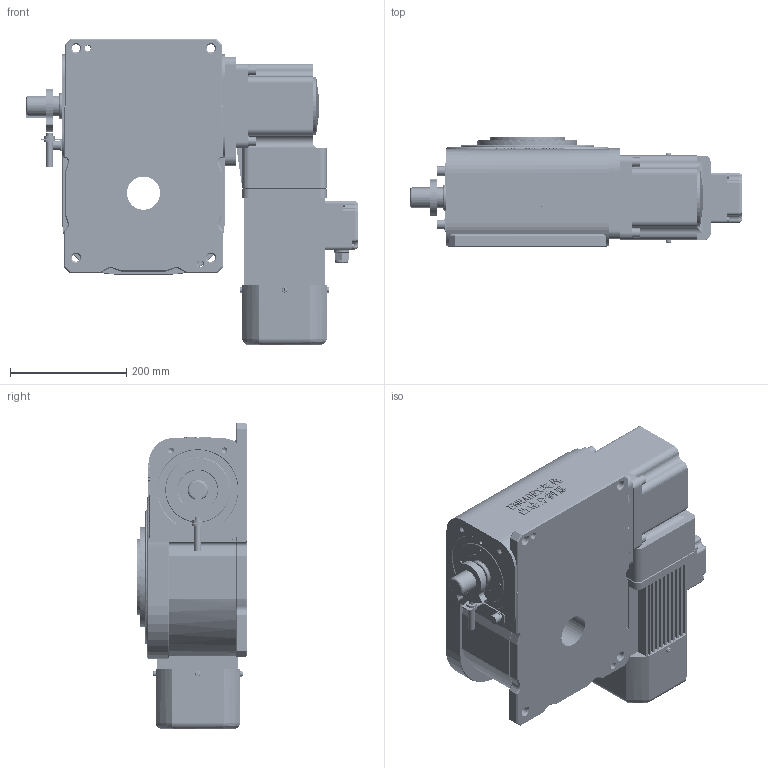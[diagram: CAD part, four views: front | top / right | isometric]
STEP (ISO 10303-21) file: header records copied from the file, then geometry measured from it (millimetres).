
FILE_DESCRIPTION (( 'STEP AP214' ), '1' );
FILE_NAME ('ER-RU150DA英锐凸轮分割器固定盘壳体法兰面销孔3D水平直联式右侧JY(电话15062628977)AA.STEP', '2022-09-05T03:31:48', ( '微软用户' ), ( '微软中国' ), 'SwSTEP 2.0', 'SolidWorks 2017', '' );
FILE_SCHEMA (( 'AUTOMOTIVE_DESIGN' ));
Length unit declared in the file: millimetre
Products named in the file (1): ER-RU150DA英锐凸轮分割器固定盘壳体法兰面销孔3D水平直联式右侧JY(电话15062628977)AA
Bounding box: 571 x 190 x 526 mm (x, y, z)
Volume: 26167998.5 mm3; surface area: 1219183.7 mm2
Topology: 3 solids, 13 shells, 3259 faces, 8734 edges, 5630 vertices
Faces by surface type: plane 1595, cylinder 912, bspline 523, cone 225, torus 4
Entity records: 201610 total; most frequent: CARTESIAN_POINT 119153, ORIENTED_EDGE 17372, DIRECTION 12627, EDGE_CURVE 8686, VERTEX_POINT 5630, VECTOR 5409, LINE 5409, AXIS2_PLACEMENT_3D 3609
